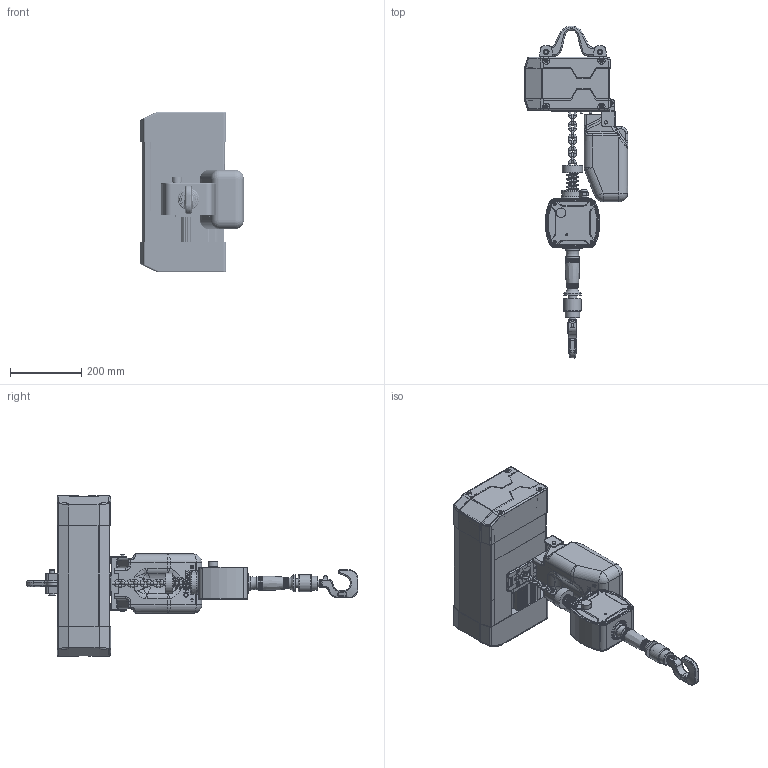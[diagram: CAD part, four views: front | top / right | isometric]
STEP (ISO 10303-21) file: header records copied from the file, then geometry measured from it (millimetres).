
FILE_DESCRIPTION(/* description */ (''),/* implementation_level */ '2;1');
FILE_NAME(/* name */ 'YJ 0.5-01 固定式 同轴.stp',/* time_stamp */ '2026-07-14T13:59:22+08:00',/* author */ (''),/* organization */ (''),/* preprocessor_version */ 'ST-DEVELOPER v16.7',/* originating_system */ 'SIEMENS PLM Software NX 12.0',/* authorisation */ '');
FILE_SCHEMA (('AP203_CONFIGURATION_CONTROLLED_3D_DESIGN_OF_MECHANICAL_PARTS_AND_ASSEMBLIES_MIM_LF { 1 0 10303 403 2 1 2}'));
Products named in the file (1): A894CAF165b9i
Bounding box: 289.59 x 930.7 x 451.2 mm (x, y, z)
Volume: 12094920.5 mm3; surface area: 1696415.8 mm2
Topology: 55 solids, 63 shells, 3778 faces, 9174 edges, 5645 vertices
Faces by surface type: plane 1452, cylinder 1168, bspline 501, torus 428, cone 152, sphere 77
Full cylindrical faces by diameter (mm): 1.467 x1, 1.707 x1, 2.14 x1, 2.5 x3, 3 x6, 3.4 x24, 3.5 x4, 4 x9, 4.05 x2, 4.2 x4, 4.3 x4, 4.5 x7, 4.826 x4, 5 x5, 5.5 x8, 5.795 x4, 5.8 x2, 6 x2, 6.2 x3, 6.3 x28, 6.6 x8, 6.8 x4, 7.46 x1, 8 x4, 8.5 x12, 8.6 x2, 8.65 x1, 9 x5, 10 x4, 10.2 x8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
Entity records: 134293 total; most frequent: CARTESIAN_POINT 49633, ORIENTED_EDGE 17017, DIRECTION 16889, EDGE_CURVE 8509, AXIS2_PLACEMENT_3D 6339, VERTEX_POINT 5457, EDGE_LOOP 4559, LINE 4211
